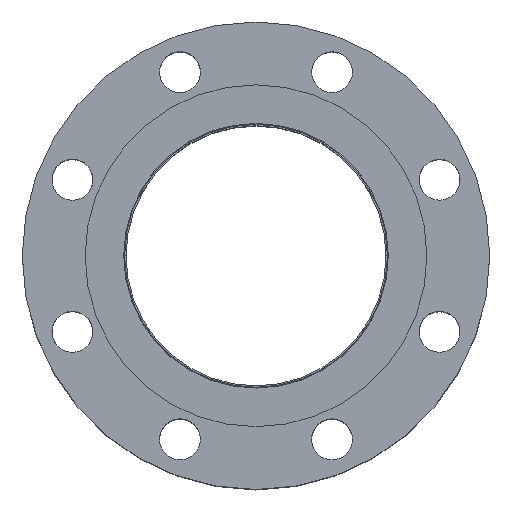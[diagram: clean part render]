
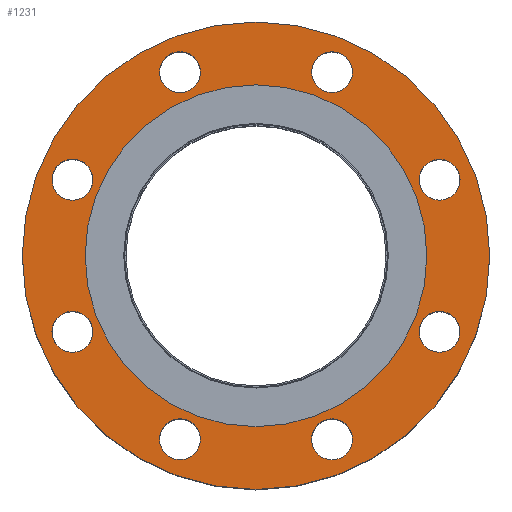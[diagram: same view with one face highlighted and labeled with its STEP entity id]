
A CAD part, top view. The second image highlights one B-rep face of the part: STEP entity #1231.
In plain terms, the highlighted planar face has unit normal (0, 0, 1).
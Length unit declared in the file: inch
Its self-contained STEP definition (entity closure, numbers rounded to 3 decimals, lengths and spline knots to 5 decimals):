
#84=FACE_BOUND('',#331,.T.);
#85=FACE_BOUND('',#332,.T.);
#86=FACE_BOUND('',#333,.T.);
#87=FACE_BOUND('',#334,.T.);
#88=FACE_BOUND('',#335,.T.);
#89=FACE_BOUND('',#336,.T.);
#90=FACE_BOUND('',#337,.T.);
#91=FACE_BOUND('',#338,.T.);
#92=FACE_BOUND('',#339,.T.);
#134=PLANE('',#1404);
#225=FACE_OUTER_BOUND('',#330,.T.);
#330=EDGE_LOOP('',(#957));
#331=EDGE_LOOP('',(#958));
#332=EDGE_LOOP('',(#959));
#333=EDGE_LOOP('',(#960));
#334=EDGE_LOOP('',(#961));
#335=EDGE_LOOP('',(#962));
#336=EDGE_LOOP('',(#963));
#337=EDGE_LOOP('',(#964));
#338=EDGE_LOOP('',(#965));
#339=EDGE_LOOP('',(#966));
#487=CIRCLE('',#1359,0.4375);
#489=CIRCLE('',#1362,0.4375);
#491=CIRCLE('',#1365,0.4375);
#493=CIRCLE('',#1368,0.4375);
#495=CIRCLE('',#1371,0.4375);
#497=CIRCLE('',#1374,0.4375);
#499=CIRCLE('',#1377,0.4375);
#501=CIRCLE('',#1380,0.4375);
#514=CIRCLE('',#1399,3.655);
#516=CIRCLE('',#1403,5.);
#627=VERTEX_POINT('',#2134);
#629=VERTEX_POINT('',#2140);
#631=VERTEX_POINT('',#2146);
#633=VERTEX_POINT('',#2152);
#635=VERTEX_POINT('',#2158);
#637=VERTEX_POINT('',#2164);
#639=VERTEX_POINT('',#2170);
#641=VERTEX_POINT('',#2176);
#652=VERTEX_POINT('',#2208);
#654=VERTEX_POINT('',#2215);
#731=EDGE_CURVE('',#627,#627,#487,.T.);
#734=EDGE_CURVE('',#629,#629,#489,.T.);
#737=EDGE_CURVE('',#631,#631,#491,.T.);
#740=EDGE_CURVE('',#633,#633,#493,.T.);
#743=EDGE_CURVE('',#635,#635,#495,.T.);
#746=EDGE_CURVE('',#637,#637,#497,.T.);
#749=EDGE_CURVE('',#639,#639,#499,.T.);
#752=EDGE_CURVE('',#641,#641,#501,.T.);
#768=EDGE_CURVE('',#652,#652,#514,.T.);
#770=EDGE_CURVE('',#654,#654,#516,.T.);
#957=ORIENTED_EDGE('',*,*,#770,.T.);
#958=ORIENTED_EDGE('',*,*,#731,.T.);
#959=ORIENTED_EDGE('',*,*,#734,.T.);
#960=ORIENTED_EDGE('',*,*,#737,.T.);
#961=ORIENTED_EDGE('',*,*,#740,.T.);
#962=ORIENTED_EDGE('',*,*,#743,.T.);
#963=ORIENTED_EDGE('',*,*,#746,.T.);
#964=ORIENTED_EDGE('',*,*,#749,.T.);
#965=ORIENTED_EDGE('',*,*,#752,.T.);
#966=ORIENTED_EDGE('',*,*,#768,.T.);
#1231=ADVANCED_FACE('',(#225,#84,#85,#86,#87,#88,#89,#90,#91,#92),#134,
 .T.);
#1359=AXIS2_PLACEMENT_3D('',#2135,#1615,#1616);
#1362=AXIS2_PLACEMENT_3D('',#2141,#1622,#1623);
#1365=AXIS2_PLACEMENT_3D('',#2147,#1629,#1630);
#1368=AXIS2_PLACEMENT_3D('',#2153,#1636,#1637);
#1371=AXIS2_PLACEMENT_3D('',#2159,#1643,#1644);
#1374=AXIS2_PLACEMENT_3D('',#2165,#1650,#1651);
#1377=AXIS2_PLACEMENT_3D('',#2171,#1657,#1658);
#1380=AXIS2_PLACEMENT_3D('',#2177,#1664,#1665);
#1399=AXIS2_PLACEMENT_3D('',#2210,#1705,#1706);
#1403=AXIS2_PLACEMENT_3D('',#2216,#1713,#1714);
#1404=AXIS2_PLACEMENT_3D('',#2218,#1716,#1717);
#1615=DIRECTION('center_axis',(0.,0.,-1.));
#1616=DIRECTION('ref_axis',(0.707,-0.707,0.));
#1622=DIRECTION('center_axis',(0.,0.,-1.));
#1623=DIRECTION('ref_axis',(0.,-1.,0.));
#1629=DIRECTION('center_axis',(0.,0.,-1.));
#1630=DIRECTION('ref_axis',(-0.707,-0.707,0.));
#1636=DIRECTION('center_axis',(0.,0.,-1.));
#1637=DIRECTION('ref_axis',(-1.,0.,0.));
#1643=DIRECTION('center_axis',(0.,0.,-1.));
#1644=DIRECTION('ref_axis',(-0.707,0.707,0.));
#1650=DIRECTION('center_axis',(0.,0.,-1.));
#1651=DIRECTION('ref_axis',(0.,1.,0.));
#1657=DIRECTION('center_axis',(0.,0.,-1.));
#1658=DIRECTION('ref_axis',(0.707,0.707,0.));
#1664=DIRECTION('center_axis',(0.,0.,-1.));
#1665=DIRECTION('ref_axis',(1.,0.,0.));
#1705=DIRECTION('center_axis',(0.,0.,-1.));
#1706=DIRECTION('ref_axis',(0.,1.,0.));
#1713=DIRECTION('center_axis',(0.,0.,1.));
#1714=DIRECTION('ref_axis',(1.,0.,0.));
#1716=DIRECTION('center_axis',(0.,0.,1.));
#1717=DIRECTION('ref_axis',(1.,0.,0.));
#2134=CARTESIAN_POINT('',(1.31705,4.23585,0.44));
#2135=CARTESIAN_POINT('Origin',(1.6264,3.92649,0.44));
#2140=CARTESIAN_POINT('',(3.92649,2.0639,0.44));
#2141=CARTESIAN_POINT('Origin',(3.92649,1.6264,0.44));
#2146=CARTESIAN_POINT('',(4.23585,-1.31705,0.44));
#2147=CARTESIAN_POINT('Origin',(3.92649,-1.6264,0.44));
#2152=CARTESIAN_POINT('',(2.0639,-3.92649,0.44));
#2153=CARTESIAN_POINT('Origin',(1.6264,-3.92649,0.44));
#2158=CARTESIAN_POINT('',(-1.31705,-4.23585,0.44));
#2159=CARTESIAN_POINT('Origin',(-1.6264,-3.92649,0.44));
#2164=CARTESIAN_POINT('',(-3.92649,-2.0639,0.44));
#2165=CARTESIAN_POINT('Origin',(-3.92649,-1.6264,0.44));
#2170=CARTESIAN_POINT('',(-4.23585,1.31705,0.44));
#2171=CARTESIAN_POINT('Origin',(-3.92649,1.6264,0.44));
#2176=CARTESIAN_POINT('',(-2.0639,3.92649,0.44));
#2177=CARTESIAN_POINT('Origin',(-1.6264,3.92649,0.44));
#2208=CARTESIAN_POINT('',(0.,-3.655,0.44));
#2210=CARTESIAN_POINT('Origin',(0.,0.,0.44));
#2215=CARTESIAN_POINT('',(0.,-5.,0.44));
#2216=CARTESIAN_POINT('Origin',(0.,0.,0.44));
#2218=CARTESIAN_POINT('Origin',(0.,2.83,0.44));
